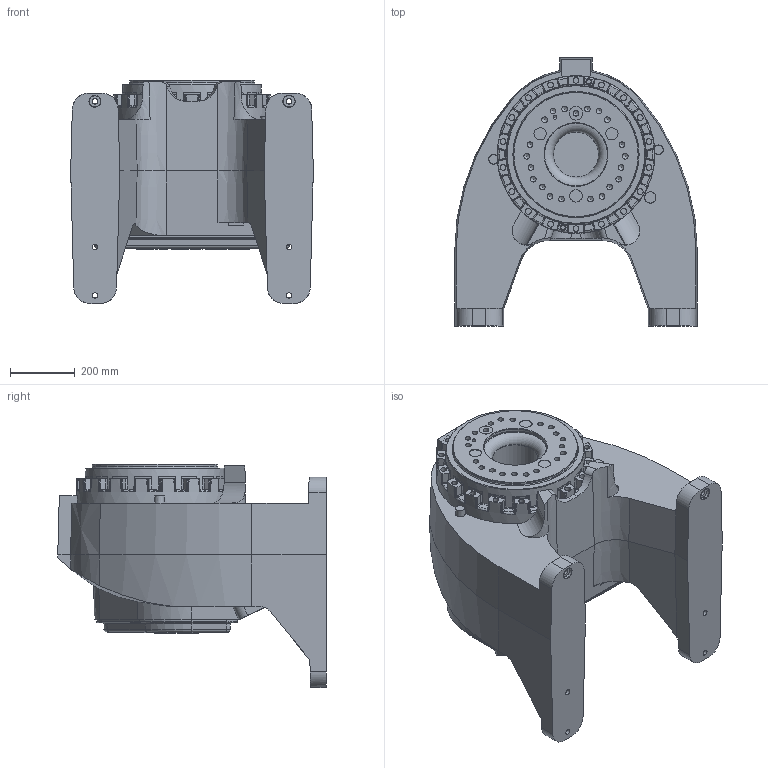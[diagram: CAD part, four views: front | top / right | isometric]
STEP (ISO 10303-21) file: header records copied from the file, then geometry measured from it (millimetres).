
FILE_DESCRIPTION (( 'STEP AP214' ), '1' );
FILE_NAME ('IRB5500-27_rev00_AXIS7_FOOT_CAD.STEP', '2018-11-27T14:42:17', ( '' ), ( '' ), 'SwSTEP 2.0', 'SolidWorks 2016', '' );
FILE_SCHEMA (( 'AUTOMOTIVE_DESIGN' ));
Length unit declared in the file: metre
Products named in the file (1): IRB5500-27_rev00_AXIS7_FOOT_CAD
Bounding box: 750 x 830 x 689.4 mm (x, y, z)
Volume: 146270248.2 mm3; surface area: 6899112.6 mm2
Topology: 2 solids, 4 shells, 1591 faces, 3965 edges, 2421 vertices
Faces by surface type: plane 498, bspline 384, cylinder 362, torus 187, cone 160
Full cylindrical faces by diameter (mm): 8.5 x4, 12 x1, 14 x2, 17 x6, 17.5 x21, 18 x20, 30 x6, 35 x1, 38 x3, 42 x1, 56 x2, 61.3 x1, 78.1 x1, 83.5 x1, 95 x1, 139 x1, 140 x1, 145 x2, 150 x1, 160 x1, 167 x1, 168 x1, 175 x1, 180 x1, 195 x1, 196 x1, 200 x1, 365 x1, 386 x1, 400 x1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
Entity records: 87427 total; most frequent: CARTESIAN_POINT 36765, ORIENTED_EDGE 7394, DIRECTION 5887, EDGE_CURVE 3697, VERTEX_POINT 2356, AXIS2_PLACEMENT_3D 2332, EDGE_LOOP 1903, FACE_OUTER_BOUND 1697
